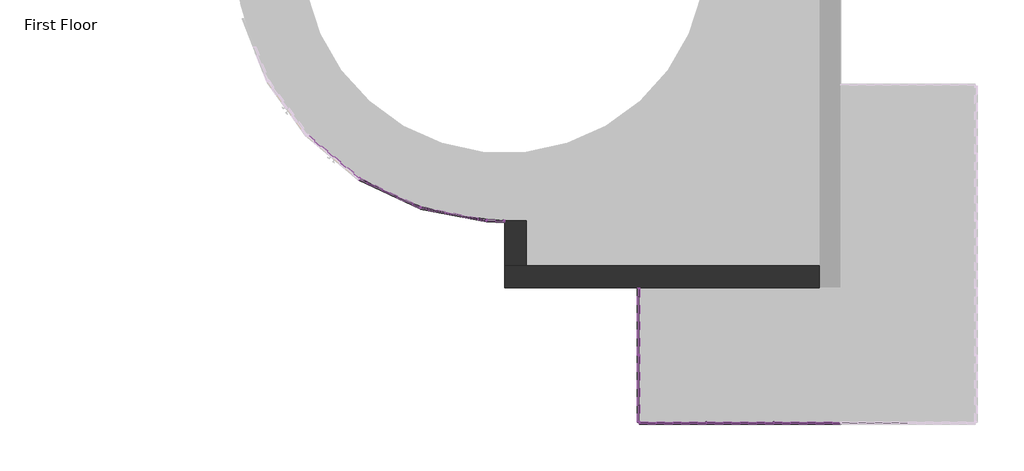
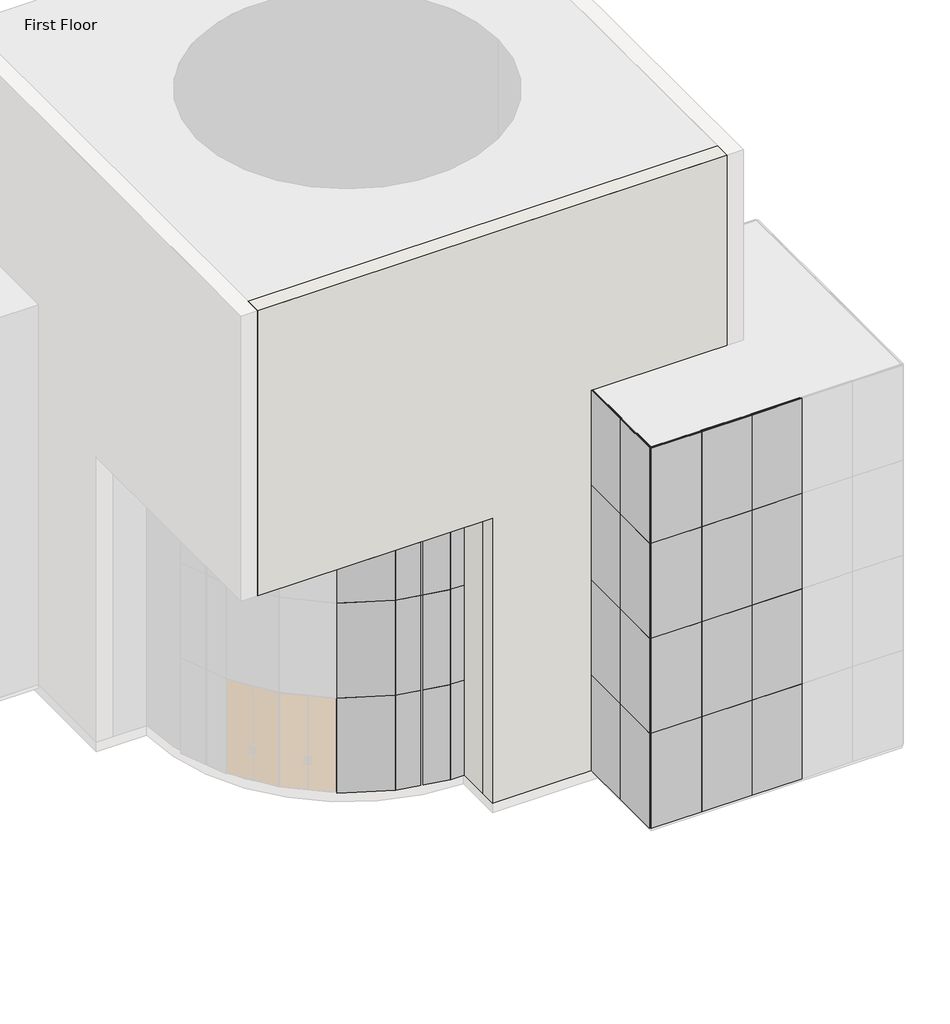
# One storey, part 1 of 4: 77 members, 29 plates, 2 walls.
"""IFC4 building model written with IfcOpenShell, lengths in millimetres."""

from ifc_helpers import new_model, si_unit, origin, origin_with_axes, place, context, project, spatial, polyline, outline, extrude, faceted_brep, transform, mapped, element, save
from components import member_74941792, member_5e617a80, member_9fd3d903, member_cbdb9076, member_6604d1e0, member_7e523723, member_648f3f05, member_cef3a68d, member_77cb5569, member_113f7001, system_panel_glazed_9c75bc08, system_panel_glazed_737b14db

model = new_model("IFC4")

# Units and contexts
model_context = context("Model", 3, world=origin())
ifc_project = project(units=[si_unit("LENGTHUNIT", "METRE", prefix="MILLI")], contexts=[model_context])

# Site, building, storey
site = spatial("IfcSite", under=ifc_project)
building = spatial("IfcBuilding", under=site)
storey = spatial("IfcBuildingStorey", under=building, Name="First Floor", Elevation=0.0)

# Members
placement = place(None, origin())
member_shape = member_74941792(model_context)
element("IfcMember", 1, ObjectType="Rectangular Mullion : 1\" Square", at=placement, inside=storey, context=model_context, shape_type="MappedRepresentation", body=[
    mapped(member_shape, transform((-3837.263284, -2526.2738568, 0.0), x_axis=(0.0, 0.0, -1.0), y_axis=(-1.0, 0.0, 0.0), z_axis=(0.0, 1.0, 0.0))),
])
element("IfcMember", 2, ObjectType="Rectangular Mullion : 1\" Square", at=placement, inside=storey, context=model_context, shape_type="MappedRepresentation", body=[
    mapped(member_shape, transform((-3837.263284, -4037.5738568, 0.0), x_axis=(0.0, 0.0, -1.0), y_axis=(-1.0, 0.0, 0.0), z_axis=(0.0, 1.0, 0.0))),
])
element("IfcMember", 3, ObjectType="Rectangular Mullion : 1\" Square", at=placement, inside=storey, context=model_context, shape_type="MappedRepresentation", body=[
    mapped(member_shape, transform((-3811.863284, -5548.8738568, 0.0), x_axis=(0.0, 0.0, -1.0), y_axis=(0.0, -1.0, 0.0), z_axis=(-1.0, 0.0, 0.0))),
])
member_2_shape = member_5e617a80(model_context)
element("IfcMember", 4, ObjectType="Rectangular Mullion : 1\" Square", at=placement, inside=storey, context=model_context, shape_type="MappedRepresentation", body=[
    mapped(member_2_shape, transform((-3837.263284, -4012.1738568, 3048.0), x_axis=(0.0, 0.0, 1.0), y_axis=(-1.0, 0.0, 0.0), z_axis=(0.0, -1.0, 0.0))),
])
element("IfcMember", 5, ObjectType="Rectangular Mullion : 1\" Square", at=placement, inside=storey, context=model_context, shape_type="MappedRepresentation", body=[
    mapped(member_2_shape, transform((-3837.263284, -5523.4738568, 3048.0), x_axis=(0.0, 0.0, 1.0), y_axis=(-1.0, 0.0, 0.0), z_axis=(0.0, -1.0, 0.0))),
])
element("IfcMember", 6, ObjectType="Rectangular Mullion : 1\" Square", at=placement, inside=storey, context=model_context, shape_type="MappedRepresentation", body=[
    mapped(member_2_shape, transform((-3837.263284, -4012.1738568, 6096.0), x_axis=(0.0, 0.0, 1.0), y_axis=(-1.0, 0.0, 0.0), z_axis=(0.0, -1.0, 0.0))),
])
element("IfcMember", 7, ObjectType="Rectangular Mullion : 1\" Square", at=placement, inside=storey, context=model_context, shape_type="MappedRepresentation", body=[
    mapped(member_2_shape, transform((-3837.263284, -5523.4738568, 6096.0), x_axis=(0.0, 0.0, 1.0), y_axis=(-1.0, 0.0, 0.0), z_axis=(0.0, -1.0, 0.0))),
])
element("IfcMember", 8, ObjectType="Rectangular Mullion : 1\" Square", at=placement, inside=storey, context=model_context, shape_type="MappedRepresentation", body=[
    mapped(member_2_shape, transform((-3837.263284, -4012.1738568, 9144.0), x_axis=(0.0, 0.0, 1.0), y_axis=(-1.0, 0.0, 0.0), z_axis=(0.0, -1.0, 0.0))),
])
element("IfcMember", 9, ObjectType="Rectangular Mullion : 1\" Square", at=placement, inside=storey, context=model_context, shape_type="MappedRepresentation", body=[
    mapped(member_2_shape, transform((-3837.263284, -5523.4738568, 9144.0), x_axis=(0.0, 0.0, 1.0), y_axis=(-1.0, 0.0, 0.0), z_axis=(0.0, -1.0, 0.0))),
])
element("IfcMember", 10, ObjectType="Rectangular Mullion : 1\" Square", at=placement, inside=storey, context=model_context, shape_type="MappedRepresentation", body=[
    mapped(member_2_shape, transform((-2325.963284, -5548.8738568, 6096.0), x_axis=(0.0, 0.0, 1.0), y_axis=(0.0, -1.0, 0.0), z_axis=(1.0, 0.0, 0.0))),
])
element("IfcMember", 11, ObjectType="Rectangular Mullion : 1\" Square", at=placement, inside=storey, context=model_context, shape_type="MappedRepresentation", body=[
    mapped(member_2_shape, transform((-2325.963284, -5548.8738568, 9144.0), x_axis=(0.0, 0.0, 1.0), y_axis=(0.0, -1.0, 0.0), z_axis=(1.0, 0.0, 0.0))),
])
element("IfcMember", 12, ObjectType="Rectangular Mullion : 1\" Square", at=placement, inside=storey, context=model_context, shape_type="MappedRepresentation", body=[
    mapped(member_2_shape, transform((-2325.963284, -5548.8738568, 3048.0), x_axis=(0.0, 0.0, 1.0), y_axis=(0.0, -1.0, 0.0), z_axis=(1.0, 0.0, 0.0))),
])
member_3_shape = member_9fd3d903(model_context)
element("IfcMember", 13, ObjectType="Rectangular Mullion : 1\" Square", at=placement, inside=storey, context=model_context, shape_type="MappedRepresentation", body=[
    mapped(member_3_shape, transform((722.036716, -5548.8738568, 9144.0), x_axis=(0.0, 0.0, 1.0), y_axis=(0.0, -1.0, 0.0), z_axis=(1.0, 0.0, 0.0))),
])
element("IfcMember", 14, ObjectType="Rectangular Mullion : 1\" Square", at=placement, inside=storey, context=model_context, shape_type="MappedRepresentation", body=[
    mapped(member_3_shape, transform((722.036716, -5548.8738568, 3048.0), x_axis=(0.0, 0.0, 1.0), y_axis=(0.0, -1.0, 0.0), z_axis=(1.0, 0.0, 0.0))),
])
element("IfcMember", 15, ObjectType="Rectangular Mullion : 1\" Square", at=placement, inside=storey, context=model_context, shape_type="MappedRepresentation", body=[
    mapped(member_3_shape, transform((-801.963284, -5548.8738568, 6096.0), x_axis=(0.0, 0.0, 1.0), y_axis=(0.0, -1.0, 0.0), z_axis=(1.0, 0.0, 0.0))),
])
element("IfcMember", 16, ObjectType="Rectangular Mullion : 1\" Square", at=placement, inside=storey, context=model_context, shape_type="MappedRepresentation", body=[
    mapped(member_3_shape, transform((722.036716, -5548.8738568, 6096.0), x_axis=(0.0, 0.0, 1.0), y_axis=(0.0, -1.0, 0.0), z_axis=(1.0, 0.0, 0.0))),
])
element("IfcMember", 17, ObjectType="Rectangular Mullion : 1\" Square", at=placement, inside=storey, context=model_context, shape_type="MappedRepresentation", body=[
    mapped(member_3_shape, transform((-801.963284, -5548.8738568, 9144.0), x_axis=(0.0, 0.0, 1.0), y_axis=(0.0, -1.0, 0.0), z_axis=(1.0, 0.0, 0.0))),
])
element("IfcMember", 18, ObjectType="Rectangular Mullion : 1\" Square", at=placement, inside=storey, context=model_context, shape_type="MappedRepresentation", body=[
    mapped(member_3_shape, transform((-801.963284, -5548.8738568, 3048.0), x_axis=(0.0, 0.0, 1.0), y_axis=(0.0, -1.0, 0.0), z_axis=(1.0, 0.0, 0.0))),
])
member_4_shape = member_cbdb9076(model_context)
element("IfcMember", 19, ObjectType="Rectangular Mullion : 1\" Square", at=placement, inside=storey, context=model_context, shape_type="MappedRepresentation", body=[
    mapped(member_4_shape, transform((-10165.4816678, -19.101504, 0.0), x_axis=(0.8428851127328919, -0.5380935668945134, 0.0), y_axis=(-0.5380935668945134, -0.8428851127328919, 0.0), z_axis=(0.0, 0.0, -1.0))),
])
element("IfcMember", 20, ObjectType="Rectangular Mullion : 1\" Square", at=placement, inside=storey, context=model_context, shape_type="MappedRepresentation", body=[
    mapped(member_4_shape, transform((-8788.4930432, -672.1545859, 0.0), x_axis=(0.9500132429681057, -0.3122096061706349, 0.0), y_axis=(-0.3122096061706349, -0.9500132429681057, 0.0), z_axis=(0.0, 0.0, -1.0))),
])
element("IfcMember", 21, ObjectType="Rectangular Mullion : 1\" Square", at=placement, inside=storey, context=model_context, shape_type="MappedRepresentation", body=[
    mapped(member_4_shape, transform((-7292.5525587, -963.2526222, 0.0), x_axis=(0.9977655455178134, -0.066812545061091, 0.0), y_axis=(-0.066812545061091, -0.9977655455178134, 0.0), z_axis=(0.0, 0.0, -1.0))),
])
element("IfcMember", 22, ObjectType="Rectangular Mullion : 1\" Square", at=placement, inside=storey, context=model_context, shape_type="MappedRepresentation", body=[
    mapped(member_4_shape, transform((-3837.263284, -4024.8738568, 0.0), x_axis=(0.0, -1.0, 0.0), y_axis=(-1.0, 0.0, 0.0), z_axis=(0.0, 0.0, -1.0))),
])
element("IfcMember", 23, ObjectType="Rectangular Mullion : 1\" Square", at=placement, inside=storey, context=model_context, shape_type="MappedRepresentation", body=[
    mapped(member_4_shape, transform((-2313.263284, -5548.8738568, 0.0), x_axis=(1.0, 0.0, 0.0), y_axis=(0.0, -1.0, 0.0), z_axis=(0.0, 0.0, -1.0))),
])
element("IfcMember", 24, ObjectType="Rectangular Mullion : 1\" Square", at=placement, inside=storey, context=model_context, shape_type="MappedRepresentation", body=[
    mapped(member_4_shape, transform((-789.263284, -5548.8738568, 0.0), x_axis=(1.0, 0.0, 0.0), y_axis=(0.0, -1.0, 0.0), z_axis=(0.0, 0.0, -1.0))),
])
member_5_shape = member_6604d1e0(model_context)
element("IfcMember", 25, ObjectType="Rectangular Mullion : 1\" Square", at=placement, inside=storey, context=model_context, shape_type="MappedRepresentation", body=[
    mapped(member_5_shape, transform((-801.963284, -5548.8738568, 12192.0), x_axis=(0.0, 0.0, 1.0), y_axis=(0.0, -1.0, 0.0), z_axis=(1.0, 0.0, 0.0))),
])
element("IfcMember", 26, ObjectType="Rectangular Mullion : 1\" Square", at=placement, inside=storey, context=model_context, shape_type="MappedRepresentation", body=[
    mapped(member_5_shape, transform((722.036716, -5548.8738568, 12192.0), x_axis=(0.0, 0.0, 1.0), y_axis=(0.0, -1.0, 0.0), z_axis=(1.0, 0.0, 0.0))),
])
element("IfcMember", 27, ObjectType="Rectangular Mullion : 1\" Square", at=placement, inside=storey, context=model_context, shape_type="MappedRepresentation", body=[
    mapped(member_4_shape, transform((-10165.4816678, -19.101504, 3048.0), x_axis=(0.8428851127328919, -0.5380935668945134, 0.0), y_axis=(-0.5380935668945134, -0.8428851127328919, 0.0), z_axis=(0.0, 0.0, -1.0))),
])
element("IfcMember", 28, ObjectType="Rectangular Mullion : 1\" Square", at=placement, inside=storey, context=model_context, shape_type="MappedRepresentation", body=[
    mapped(member_4_shape, transform((-8788.4930432, -672.1545859, 3048.0), x_axis=(0.9500132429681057, -0.3122096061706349, 0.0), y_axis=(-0.3122096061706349, -0.9500132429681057, 0.0), z_axis=(0.0, 0.0, -1.0))),
])
element("IfcMember", 29, ObjectType="Rectangular Mullion : 1\" Square", at=placement, inside=storey, context=model_context, shape_type="MappedRepresentation", body=[
    mapped(member_4_shape, transform((-7292.5525587, -963.2526222, 3048.0), x_axis=(0.9977655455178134, -0.066812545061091, 0.0), y_axis=(-0.066812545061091, -0.9977655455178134, 0.0), z_axis=(0.0, 0.0, -1.0))),
])
element("IfcMember", 30, ObjectType="Rectangular Mullion : 1\" Square", at=placement, inside=storey, context=model_context, shape_type="MappedRepresentation", body=[
    mapped(member_4_shape, transform((-3837.263284, -4024.8738568, 3048.0), x_axis=(0.0, -1.0, 0.0), y_axis=(-1.0, 0.0, 0.0), z_axis=(0.0, 0.0, -1.0))),
])
element("IfcMember", 31, ObjectType="Rectangular Mullion : 1\" Square", at=placement, inside=storey, context=model_context, shape_type="MappedRepresentation", body=[
    mapped(member_4_shape, transform((-3837.263284, -4024.8738568, 6096.0), x_axis=(0.0, -1.0, 0.0), y_axis=(-1.0, 0.0, 0.0), z_axis=(0.0, 0.0, -1.0))),
])
element("IfcMember", 32, ObjectType="Rectangular Mullion : 1\" Square", at=placement, inside=storey, context=model_context, shape_type="MappedRepresentation", body=[
    mapped(member_4_shape, transform((-2313.263284, -5548.8738568, 3048.0), x_axis=(1.0, 0.0, 0.0), y_axis=(0.0, -1.0, 0.0), z_axis=(0.0, 0.0, -1.0))),
])
element("IfcMember", 33, ObjectType="Rectangular Mullion : 1\" Square", at=placement, inside=storey, context=model_context, shape_type="MappedRepresentation", body=[
    mapped(member_4_shape, transform((-2313.263284, -5548.8738568, 6096.0), x_axis=(1.0, 0.0, 0.0), y_axis=(0.0, -1.0, 0.0), z_axis=(0.0, 0.0, -1.0))),
])
element("IfcMember", 34, ObjectType="Rectangular Mullion : 1\" Square", at=placement, inside=storey, context=model_context, shape_type="MappedRepresentation", body=[
    mapped(member_4_shape, transform((-789.263284, -5548.8738568, 3048.0), x_axis=(1.0, 0.0, 0.0), y_axis=(0.0, -1.0, 0.0), z_axis=(0.0, 0.0, -1.0))),
])
element("IfcMember", 35, ObjectType="Rectangular Mullion : 1\" Square", at=placement, inside=storey, context=model_context, shape_type="MappedRepresentation", body=[
    mapped(member_4_shape, transform((-789.263284, -5548.8738568, 6096.0), x_axis=(1.0, 0.0, 0.0), y_axis=(0.0, -1.0, 0.0), z_axis=(0.0, 0.0, -1.0))),
])
element("IfcMember", 36, ObjectType="Rectangular Mullion : 1\" Square", at=placement, inside=storey, context=model_context, shape_type="MappedRepresentation", body=[
    mapped(member_4_shape, transform((-10165.4816678, -19.101504, 6096.0), x_axis=(0.8428851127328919, -0.5380935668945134, 0.0), y_axis=(-0.5380935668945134, -0.8428851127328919, 0.0), z_axis=(0.0, 0.0, -1.0))),
])
element("IfcMember", 37, ObjectType="Rectangular Mullion : 1\" Square", at=placement, inside=storey, context=model_context, shape_type="MappedRepresentation", body=[
    mapped(member_4_shape, transform((-8788.4930432, -672.1545859, 6096.0), x_axis=(0.9500132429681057, -0.3122096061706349, 0.0), y_axis=(-0.3122096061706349, -0.9500132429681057, 0.0), z_axis=(0.0, 0.0, -1.0))),
])
element("IfcMember", 38, ObjectType="Rectangular Mullion : 1\" Square", at=placement, inside=storey, context=model_context, shape_type="MappedRepresentation", body=[
    mapped(member_4_shape, transform((-7292.5525587, -963.2526222, 6096.0), x_axis=(0.9977655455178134, -0.066812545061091, 0.0), y_axis=(-0.066812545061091, -0.9977655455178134, 0.0), z_axis=(0.0, 0.0, -1.0))),
])
element("IfcMember", 39, ObjectType="Rectangular Mullion : 1\" Square", at=placement, inside=storey, context=model_context, shape_type="MappedRepresentation", body=[
    mapped(member_4_shape, transform((-3837.263284, -4024.8738568, 9144.0), x_axis=(0.0, -1.0, 0.0), y_axis=(-1.0, 0.0, 0.0), z_axis=(0.0, 0.0, -1.0))),
])
element("IfcMember", 40, ObjectType="Rectangular Mullion : 1\" Square", at=placement, inside=storey, context=model_context, shape_type="MappedRepresentation", body=[
    mapped(member_4_shape, transform((-2313.263284, -5548.8738568, 9144.0), x_axis=(1.0, 0.0, 0.0), y_axis=(0.0, -1.0, 0.0), z_axis=(0.0, 0.0, -1.0))),
])
element("IfcMember", 41, ObjectType="Rectangular Mullion : 1\" Square", at=placement, inside=storey, context=model_context, shape_type="MappedRepresentation", body=[
    mapped(member_4_shape, transform((-789.263284, -5548.8738568, 9144.0), x_axis=(1.0, 0.0, 0.0), y_axis=(0.0, -1.0, 0.0), z_axis=(0.0, 0.0, -1.0))),
])
element("IfcMember", 42, ObjectType="Rectangular Mullion : 1\" Square", at=placement, inside=storey, context=model_context, shape_type="MappedRepresentation", body=[
    mapped(member_5_shape, transform((-2300.563284, -5548.8738568, 0.0), x_axis=(0.0, 0.0, -1.0), y_axis=(0.0, -1.0, 0.0), z_axis=(-1.0, 0.0, 0.0))),
])
element("IfcMember", 43, ObjectType="Rectangular Mullion : 1\" Square", at=placement, inside=storey, context=model_context, shape_type="MappedRepresentation", body=[
    mapped(member_5_shape, transform((-776.563284, -5548.8738568, 0.0), x_axis=(0.0, 0.0, -1.0), y_axis=(0.0, -1.0, 0.0), z_axis=(-1.0, 0.0, 0.0))),
])
element("IfcMember", 44, ObjectType="Rectangular Mullion : 1\" Square", at=placement, inside=storey, context=model_context, shape_type="MappedRepresentation", body=[
    mapped(member_5_shape, transform((747.436716, -5548.8738568, 0.0), x_axis=(0.0, 0.0, -1.0), y_axis=(0.0, -1.0, 0.0), z_axis=(-1.0, 0.0, 0.0))),
])
element("IfcMember", 45, ObjectType="Rectangular Mullion : 1\" Square", at=placement, inside=storey, context=model_context, shape_type="MappedRepresentation", body=[
    mapped(member_shape, transform((-3837.263284, -5523.4738568, 12192.0), x_axis=(0.0, 0.0, 1.0), y_axis=(-1.0, 0.0, 0.0), z_axis=(0.0, -1.0, 0.0))),
])
element("IfcMember", 46, ObjectType="Rectangular Mullion : 1\" Square", at=placement, inside=storey, context=model_context, shape_type="MappedRepresentation", body=[
    mapped(member_shape, transform((-3837.263284, -4012.1738568, 12192.0), x_axis=(0.0, 0.0, 1.0), y_axis=(-1.0, 0.0, 0.0), z_axis=(0.0, -1.0, 0.0))),
])
element("IfcMember", 47, ObjectType="Rectangular Mullion : 1\" Square", at=placement, inside=storey, context=model_context, shape_type="MappedRepresentation", body=[
    mapped(member_shape, transform((-2325.963284, -5548.8738568, 12192.0), x_axis=(0.0, 0.0, 1.0), y_axis=(0.0, -1.0, 0.0), z_axis=(1.0, 0.0, 0.0))),
])
member_6_shape = member_7e523723(model_context)
element("IfcMember", 48, ObjectType="Rectangular Mullion : 1\" Square", at=placement, inside=storey, context=model_context, shape_type="MappedRepresentation", body=[
    mapped(member_6_shape, transform((-6885.263284, -976.8738568, 0.0), x_axis=(0.9994412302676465, -0.03342494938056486, 0.0), y_axis=(-0.03342494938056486, -0.9994412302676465, 0.0), z_axis=(0.0, 0.0, -1.0))),
])
element("IfcMember", 49, ObjectType="Rectangular Mullion : 1\" Square", at=placement, inside=storey, context=model_context, shape_type="MappedRepresentation", body=[
    mapped(member_6_shape, transform((-3837.263284, -5548.8738568, 0.0), x_axis=(0.0, -1.0, 0.0), y_axis=(-1.0, 0.0, 0.0), z_axis=(0.0, 0.0, -1.0))),
])
element("IfcMember", 50, ObjectType="Rectangular Mullion : 1\" Square", at=placement, inside=storey, context=model_context, shape_type="MappedRepresentation", body=[
    mapped(member_6_shape, transform((-3837.263284, -2500.8738568, 3048.0), x_axis=(0.0, 1.0, 0.0), y_axis=(-1.0, 0.0, 0.0), z_axis=(0.0, 0.0, 1.0))),
])
element("IfcMember", 51, ObjectType="Rectangular Mullion : 1\" Square", at=placement, inside=storey, context=model_context, shape_type="MappedRepresentation", body=[
    mapped(member_6_shape, transform((-3837.263284, -5548.8738568, 3048.0), x_axis=(-1.0, 0.0, 0.0), y_axis=(0.0, -1.0, 0.0), z_axis=(0.0, 0.0, 1.0))),
])
element("IfcMember", 52, ObjectType="Rectangular Mullion : 1\" Square", at=placement, inside=storey, context=model_context, shape_type="MappedRepresentation", body=[
    mapped(member_6_shape, transform((-3837.263284, -2500.8738568, 6096.0), x_axis=(0.0, 1.0, 0.0), y_axis=(-1.0, 0.0, 0.0), z_axis=(0.0, 0.0, 1.0))),
])
element("IfcMember", 53, ObjectType="Rectangular Mullion : 1\" Square", at=placement, inside=storey, context=model_context, shape_type="MappedRepresentation", body=[
    mapped(member_6_shape, transform((-3837.263284, -2500.8738568, 9144.0), x_axis=(0.0, 1.0, 0.0), y_axis=(-1.0, 0.0, 0.0), z_axis=(0.0, 0.0, 1.0))),
])
element("IfcMember", 54, ObjectType="Rectangular Mullion : 1\" Square", at=placement, inside=storey, context=model_context, shape_type="MappedRepresentation", body=[
    mapped(member_6_shape, transform((-3837.263284, -5548.8738568, 6096.0), x_axis=(-1.0, 0.0, 0.0), y_axis=(0.0, -1.0, 0.0), z_axis=(0.0, 0.0, 1.0))),
])
element("IfcMember", 55, ObjectType="Rectangular Mullion : 1\" Square", at=placement, inside=storey, context=model_context, shape_type="MappedRepresentation", body=[
    mapped(member_6_shape, transform((-3837.263284, -5548.8738568, 9144.0), x_axis=(-1.0, 0.0, 0.0), y_axis=(0.0, -1.0, 0.0), z_axis=(0.0, 0.0, 1.0))),
])
element("IfcMember", 56, ObjectType="Rectangular Mullion : 1\" Square", at=placement, inside=storey, context=model_context, shape_type="MappedRepresentation", body=[
    mapped(member_6_shape, transform((-6885.263284, -976.8738568, 3048.0), x_axis=(0.9994412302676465, -0.03342494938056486, 0.0), y_axis=(-0.03342494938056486, -0.9994412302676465, 0.0), z_axis=(0.0, 0.0, -1.0))),
])
element("IfcMember", 57, ObjectType="Rectangular Mullion : 1\" Square", at=placement, inside=storey, context=model_context, shape_type="MappedRepresentation", body=[
    mapped(member_6_shape, transform((-3837.263284, -5548.8738568, 3048.0), x_axis=(0.0, -1.0, 0.0), y_axis=(-1.0, 0.0, 0.0), z_axis=(0.0, 0.0, -1.0))),
])
element("IfcMember", 58, ObjectType="Rectangular Mullion : 1\" Square", at=placement, inside=storey, context=model_context, shape_type="MappedRepresentation", body=[
    mapped(member_6_shape, transform((-3837.263284, -5548.8738568, 6096.0), x_axis=(0.0, -1.0, 0.0), y_axis=(-1.0, 0.0, 0.0), z_axis=(0.0, 0.0, -1.0))),
])
element("IfcMember", 59, ObjectType="Rectangular Mullion : 1\" Square", at=placement, inside=storey, context=model_context, shape_type="MappedRepresentation", body=[
    mapped(member_6_shape, transform((-6885.263284, -976.8738568, 6096.0), x_axis=(0.9994412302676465, -0.03342494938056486, 0.0), y_axis=(-0.03342494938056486, -0.9994412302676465, 0.0), z_axis=(0.0, 0.0, -1.0))),
])
element("IfcMember", 60, ObjectType="Rectangular Mullion : 1\" Square", at=placement, inside=storey, context=model_context, shape_type="MappedRepresentation", body=[
    mapped(member_6_shape, transform((-3837.263284, -5548.8738568, 9144.0), x_axis=(0.0, -1.0, 0.0), y_axis=(-1.0, 0.0, 0.0), z_axis=(0.0, 0.0, -1.0))),
])
element("IfcMember", 61, ObjectType="Rectangular Mullion : 1\" Square", at=placement, inside=storey, context=model_context, shape_type="MappedRepresentation", body=[
    mapped(member_6_shape, transform((-3837.263284, -2500.8738568, 12192.0), x_axis=(0.0, 1.0, 0.0), y_axis=(-1.0, 0.0, 0.0), z_axis=(0.0, 0.0, 1.0))),
])
element("IfcMember", 62, ObjectType="Rectangular Mullion : 1\" Square", at=placement, inside=storey, context=model_context, shape_type="MappedRepresentation", body=[
    mapped(member_6_shape, transform((-3837.263284, -5548.8738568, 12192.0), x_axis=(-1.0, 0.0, 0.0), y_axis=(0.0, -1.0, 0.0), z_axis=(0.0, 0.0, 1.0))),
])
member_7_shape = member_648f3f05(model_context)
element("IfcMember", 63, ObjectType="Rectangular Mullion : 1\" Square", at=placement, inside=storey, context=model_context, shape_type="MappedRepresentation", body=[
    mapped(member_7_shape, transform((-10175.2481259, -10.9832347, 3048.0), x_axis=(0.0, 0.0, 1.0), y_axis=(-0.639233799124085, -0.7690124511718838, 0.0), z_axis=(0.7690124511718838, -0.639233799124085, 0.0))),
])
element("IfcMember", 64, ObjectType="Rectangular Mullion : 1\" Square", at=placement, inside=storey, context=model_context, shape_type="MappedRepresentation", body=[
    mapped(member_7_shape, transform((-8799.9679484, -666.7124769, 3048.0), x_axis=(0.0, 0.0, 1.0), y_axis=(-0.4285125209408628, -0.9035358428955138, 0.0), z_axis=(0.9035358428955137, -0.42851252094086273, 0.0))),
])
element("IfcMember", 65, ObjectType="Rectangular Mullion : 1\" Square", at=placement, inside=storey, context=model_context, shape_type="MappedRepresentation", body=[
    mapped(member_7_shape, transform((-7305.0187294, -960.8268053, 3048.0), x_axis=(0.0, 0.0, 1.0), y_axis=(-0.19100921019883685, -0.981588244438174, 0.0), z_axis=(0.981588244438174, -0.19100921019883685, 0.0))),
])
element("IfcMember", 66, ObjectType="Rectangular Mullion : 1\" Square", at=placement, inside=storey, context=model_context, shape_type="MappedRepresentation", body=[
    mapped(member_7_shape, transform((-10175.2481259, -10.9832347, 6096.0), x_axis=(0.0, 0.0, 1.0), y_axis=(-0.639233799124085, -0.7690124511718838, 0.0), z_axis=(0.7690124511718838, -0.639233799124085, 0.0))),
])
element("IfcMember", 67, ObjectType="Rectangular Mullion : 1\" Square", at=placement, inside=storey, context=model_context, shape_type="MappedRepresentation", body=[
    mapped(member_7_shape, transform((-8799.9679484, -666.7124769, 6096.0), x_axis=(0.0, 0.0, 1.0), y_axis=(-0.4285125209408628, -0.9035358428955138, 0.0), z_axis=(0.9035358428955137, -0.42851252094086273, 0.0))),
])
element("IfcMember", 68, ObjectType="Rectangular Mullion : 1\" Square", at=placement, inside=storey, context=model_context, shape_type="MappedRepresentation", body=[
    mapped(member_7_shape, transform((-7305.0187294, -960.8268053, 6096.0), x_axis=(0.0, 0.0, 1.0), y_axis=(-0.19100921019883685, -0.981588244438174, 0.0), z_axis=(0.981588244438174, -0.19100921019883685, 0.0))),
])
member_8_shape = member_cef3a68d(model_context)
element("IfcMember", 69, ObjectType="Rectangular Mullion : 1\" Square", at=placement, inside=storey, context=model_context, shape_type="MappedRepresentation", body=[
    mapped(member_8_shape, transform((-6910.6490912, -976.0248631, 3048.0), x_axis=(0.0, 0.0, 1.0), y_axis=(-0.033424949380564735, -0.9994412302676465, 0.0), z_axis=(0.9994412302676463, -0.03342494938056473, 0.0))),
])
element("IfcMember", 70, ObjectType="Rectangular Mullion : 1\" Square", at=placement, inside=storey, context=model_context, shape_type="MappedRepresentation", body=[
    mapped(member_8_shape, transform((-6910.6490912, -976.0248631, 6096.0), x_axis=(0.0, 0.0, 1.0), y_axis=(-0.033424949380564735, -0.9994412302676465, 0.0), z_axis=(0.9994412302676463, -0.03342494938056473, 0.0))),
])
member_9_shape = member_77cb5569(model_context)
element("IfcMember", 71, ObjectType="Rectangular Mullion : 1\" Square", at=placement, inside=storey, context=model_context, shape_type="MappedRepresentation", body=[
    mapped(member_9_shape, transform((-6910.6490912, -976.0248631, 9144.0), x_axis=(0.0, 0.0, 1.0), y_axis=(-0.033424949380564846, -0.9994412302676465, 0.0), z_axis=(0.9994412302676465, -0.033424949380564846, 0.0))),
])
member_10_shape = member_113f7001(model_context)
element("IfcMember", 72, ObjectType="Rectangular Mullion : 1\" Square", at=placement, inside=storey, context=model_context, shape_type="MappedRepresentation", body=[
    mapped(member_10_shape, transform((-10154.0067626, -24.543613, 0.0), x_axis=(0.0, 0.0, -1.0), y_axis=(-0.42851252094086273, -0.9035358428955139, 0.0), z_axis=(-0.9035358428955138, 0.4285125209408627, 0.0))),
])
element("IfcMember", 73, ObjectType="Rectangular Mullion : 1\" Square", at=placement, inside=storey, context=model_context, shape_type="MappedRepresentation", body=[
    mapped(member_10_shape, transform((-8776.0268725, -674.5804029, 0.0), x_axis=(0.0, 0.0, -1.0), y_axis=(-0.19100921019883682, -0.981588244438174, 0.0), z_axis=(-0.981588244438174, 0.19100921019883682, 0.0))),
])
element("IfcMember", 74, ObjectType="Rectangular Mullion : 1\" Square", at=placement, inside=storey, context=model_context, shape_type="MappedRepresentation", body=[
    mapped(member_9_shape, transform((-7279.8596551, -963.6771191, 0.0), x_axis=(0.0, 0.0, -1.0), y_axis=(-0.033424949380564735, -0.9994412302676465, 0.0), z_axis=(-0.9994412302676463, 0.03342494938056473, 0.0))),
])
element("IfcMember", 75, ObjectType="Rectangular Mullion : 1\" Square", at=placement, inside=storey, context=model_context, shape_type="MappedRepresentation", body=[
    mapped(member_10_shape, transform((-10175.2481259, -10.9832347, 9144.0), x_axis=(0.0, 0.0, 1.0), y_axis=(-0.6392337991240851, -0.7690124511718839, 0.0), z_axis=(0.7690124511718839, -0.6392337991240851, 0.0))),
])
element("IfcMember", 76, ObjectType="Rectangular Mullion : 1\" Square", at=placement, inside=storey, context=model_context, shape_type="MappedRepresentation", body=[
    mapped(member_10_shape, transform((-8799.9679484, -666.7124769, 9144.0), x_axis=(0.0, 0.0, 1.0), y_axis=(-0.42851252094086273, -0.9035358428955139, 0.0), z_axis=(0.9035358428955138, -0.4285125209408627, 0.0))),
])
element("IfcMember", 77, ObjectType="Rectangular Mullion : 1\" Square", at=placement, inside=storey, context=model_context, shape_type="MappedRepresentation", body=[
    mapped(member_10_shape, transform((-7305.0187294, -960.8268053, 9144.0), x_axis=(0.0, 0.0, 1.0), y_axis=(-0.19100921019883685, -0.9815882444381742, 0.0), z_axis=(0.9815882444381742, -0.19100921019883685, 0.0))),
])

# Plates
system_panel_glazed_shape = system_panel_glazed_9c75bc08(model_context)
element("IfcPlate", 78, ObjectType="System Panel : Glazed", at=placement, inside=storey, context=model_context, shape_type="MappedRepresentation", body=[
    mapped(system_panel_glazed_shape, transform((-3837.263284, -3262.8738568, 0.0), x_axis=(0.0, -1.0, 0.0), y_axis=(1.0, 0.0, 0.0), z_axis=(0.0, 0.0, 1.0))),
])
element("IfcPlate", 79, ObjectType="System Panel : Glazed", at=placement, inside=storey, context=model_context, shape_type="MappedRepresentation", body=[
    mapped(system_panel_glazed_shape, transform((-3837.263284, -4786.8738568, 0.0), x_axis=(0.0, -1.0, 0.0), y_axis=(1.0, 0.0, 0.0), z_axis=(0.0, 0.0, 1.0))),
])
element("IfcPlate", 80, ObjectType="System Panel : Glazed", at=placement, inside=storey, context=model_context, shape_type="MappedRepresentation", body=[
    mapped(system_panel_glazed_shape, transform((-3837.263284, -3262.8738568, 3048.0), x_axis=(0.0, -1.0, 0.0), y_axis=(1.0, 0.0, 0.0), z_axis=(0.0, 0.0, 1.0))),
])
element("IfcPlate", 81, ObjectType="System Panel : Glazed", at=placement, inside=storey, context=model_context, shape_type="MappedRepresentation", body=[
    mapped(system_panel_glazed_shape, transform((-3837.263284, -4786.8738568, 3048.0), x_axis=(0.0, -1.0, 0.0), y_axis=(1.0, 0.0, 0.0), z_axis=(0.0, 0.0, 1.0))),
])
element("IfcPlate", 82, ObjectType="System Panel : Glazed", at=placement, inside=storey, context=model_context, shape_type="MappedRepresentation", body=[
    mapped(system_panel_glazed_shape, transform((-3837.263284, -3262.8738568, 6096.0), x_axis=(0.0, -1.0, 0.0), y_axis=(1.0, 0.0, 0.0), z_axis=(0.0, 0.0, 1.0))),
])
element("IfcPlate", 83, ObjectType="System Panel : Glazed", at=placement, inside=storey, context=model_context, shape_type="MappedRepresentation", body=[
    mapped(system_panel_glazed_shape, transform((-3837.263284, -4786.8738568, 6096.0), x_axis=(0.0, -1.0, 0.0), y_axis=(1.0, 0.0, 0.0), z_axis=(0.0, 0.0, 1.0))),
])
element("IfcPlate", 84, ObjectType="System Panel : Glazed", at=placement, inside=storey, context=model_context, shape_type="MappedRepresentation", body=[
    mapped(system_panel_glazed_shape, transform((-3837.263284, -3262.8738568, 9144.0), x_axis=(0.0, -1.0, 0.0), y_axis=(1.0, 0.0, 0.0), z_axis=(0.0, 0.0, 1.0))),
])
element("IfcPlate", 85, ObjectType="System Panel : Glazed", at=placement, inside=storey, context=model_context, shape_type="MappedRepresentation", body=[
    mapped(system_panel_glazed_shape, transform((-3837.263284, -4786.8738568, 9144.0), x_axis=(0.0, -1.0, 0.0), y_axis=(1.0, 0.0, 0.0), z_axis=(0.0, 0.0, 1.0))),
])
element("IfcPlate", 86, ObjectType="System Panel : Glazed", at=placement, inside=storey, context=model_context, shape_type="MappedRepresentation", body=[
    mapped(system_panel_glazed_shape, transform((-3075.263284, -5548.8738568, 0.0), x_axis=(1.0, 0.0, 0.0), y_axis=(0.0, 1.0, 0.0), z_axis=(0.0, 0.0, 1.0))),
])
element("IfcPlate", 87, ObjectType="System Panel : Glazed", at=placement, inside=storey, context=model_context, shape_type="MappedRepresentation", body=[
    mapped(system_panel_glazed_shape, transform((-1551.263284, -5548.8738568, 0.0), x_axis=(1.0, 0.0, 0.0), y_axis=(0.0, 1.0, 0.0), z_axis=(0.0, 0.0, 1.0))),
])
element("IfcPlate", 88, ObjectType="System Panel : Glazed", at=placement, inside=storey, context=model_context, shape_type="MappedRepresentation", body=[
    mapped(system_panel_glazed_shape, transform((-27.263284, -5548.8738568, 0.0), x_axis=(1.0, 0.0, 0.0), y_axis=(0.0, 1.0, 0.0), z_axis=(0.0, 0.0, 1.0))),
])
element("IfcPlate", 89, ObjectType="System Panel : Glazed", at=placement, inside=storey, context=model_context, shape_type="MappedRepresentation", body=[
    mapped(system_panel_glazed_shape, transform((-3075.263284, -5548.8738568, 3048.0), x_axis=(1.0, 0.0, 0.0), y_axis=(0.0, 1.0, 0.0), z_axis=(0.0, 0.0, 1.0))),
])
element("IfcPlate", 90, ObjectType="System Panel : Glazed", at=placement, inside=storey, context=model_context, shape_type="MappedRepresentation", body=[
    mapped(system_panel_glazed_shape, transform((-1551.263284, -5548.8738568, 3048.0), x_axis=(1.0, 0.0, 0.0), y_axis=(0.0, 1.0, 0.0), z_axis=(0.0, 0.0, 1.0))),
])
element("IfcPlate", 91, ObjectType="System Panel : Glazed", at=placement, inside=storey, context=model_context, shape_type="MappedRepresentation", body=[
    mapped(system_panel_glazed_shape, transform((-27.263284, -5548.8738568, 3048.0), x_axis=(1.0, 0.0, 0.0), y_axis=(0.0, 1.0, 0.0), z_axis=(0.0, 0.0, 1.0))),
])
element("IfcPlate", 92, ObjectType="System Panel : Glazed", at=placement, inside=storey, context=model_context, shape_type="MappedRepresentation", body=[
    mapped(system_panel_glazed_shape, transform((-3075.263284, -5548.8738568, 6096.0), x_axis=(1.0, 0.0, 0.0), y_axis=(0.0, 1.0, 0.0), z_axis=(0.0, 0.0, 1.0))),
])
element("IfcPlate", 93, ObjectType="System Panel : Glazed", at=placement, inside=storey, context=model_context, shape_type="MappedRepresentation", body=[
    mapped(system_panel_glazed_shape, transform((-1551.263284, -5548.8738568, 6096.0), x_axis=(1.0, 0.0, 0.0), y_axis=(0.0, 1.0, 0.0), z_axis=(0.0, 0.0, 1.0))),
])
element("IfcPlate", 94, ObjectType="System Panel : Glazed", at=placement, inside=storey, context=model_context, shape_type="MappedRepresentation", body=[
    mapped(system_panel_glazed_shape, transform((-27.263284, -5548.8738568, 6096.0), x_axis=(1.0, 0.0, 0.0), y_axis=(0.0, 1.0, 0.0), z_axis=(0.0, 0.0, 1.0))),
])
element("IfcPlate", 95, ObjectType="System Panel : Glazed", at=placement, inside=storey, context=model_context, shape_type="MappedRepresentation", body=[
    mapped(system_panel_glazed_shape, transform((-3075.263284, -5548.8738568, 9144.0), x_axis=(1.0, 0.0, 0.0), y_axis=(0.0, 1.0, 0.0), z_axis=(0.0, 0.0, 1.0))),
])
element("IfcPlate", 96, ObjectType="System Panel : Glazed", at=placement, inside=storey, context=model_context, shape_type="MappedRepresentation", body=[
    mapped(system_panel_glazed_shape, transform((-1551.263284, -5548.8738568, 9144.0), x_axis=(1.0, 0.0, 0.0), y_axis=(0.0, 1.0, 0.0), z_axis=(0.0, 0.0, 1.0))),
])
element("IfcPlate", 97, ObjectType="System Panel : Glazed", at=placement, inside=storey, context=model_context, shape_type="MappedRepresentation", body=[
    mapped(system_panel_glazed_shape, transform((-27.263284, -5548.8738568, 9144.0), x_axis=(1.0, 0.0, 0.0), y_axis=(0.0, 1.0, 0.0), z_axis=(0.0, 0.0, 1.0))),
])
element("IfcPlate", 98, ObjectType="System Panel : Glazed", at=placement, inside=storey, context=model_context, shape_type="MappedRepresentation", body=[
    mapped(system_panel_glazed_shape, transform((-9476.9873555, -345.6280449, 0.0), x_axis=(0.9035358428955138, -0.42851252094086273, 0.0), y_axis=(0.42851252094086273, 0.9035358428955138, 0.0), z_axis=(0.0, 0.0, 1.0))),
])
element("IfcPlate", 99, ObjectType="System Panel : Glazed", at=placement, inside=storey, context=model_context, shape_type="MappedRepresentation", body=[
    mapped(system_panel_glazed_shape, transform((-8040.522801, -817.7036041, 0.0), x_axis=(0.981588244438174, -0.19100921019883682, 0.0), y_axis=(0.19100921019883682, 0.981588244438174, 0.0), z_axis=(0.0, 0.0, 1.0))),
])
element("IfcPlate", 100, ObjectType="System Panel : Glazed", at=placement, inside=storey, context=model_context, shape_type="MappedRepresentation", body=[
    mapped(system_panel_glazed_shape, transform((-9476.9873555, -345.6280449, 3048.0), x_axis=(0.9035358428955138, -0.42851252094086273, 0.0), y_axis=(0.42851252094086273, 0.9035358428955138, 0.0), z_axis=(0.0, 0.0, 1.0))),
])
element("IfcPlate", 101, ObjectType="System Panel : Glazed", at=placement, inside=storey, context=model_context, shape_type="MappedRepresentation", body=[
    mapped(system_panel_glazed_shape, transform((-8040.522801, -817.7036041, 3048.0), x_axis=(0.981588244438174, -0.19100921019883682, 0.0), y_axis=(0.19100921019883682, 0.981588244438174, 0.0), z_axis=(0.0, 0.0, 1.0))),
])
element("IfcPlate", 102, ObjectType="System Panel : Glazed", at=placement, inside=storey, context=model_context, shape_type="MappedRepresentation", body=[
    mapped(system_panel_glazed_shape, transform((-9476.9873555, -345.6280449, 6096.0), x_axis=(0.9035358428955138, -0.42851252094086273, 0.0), y_axis=(0.42851252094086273, 0.9035358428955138, 0.0), z_axis=(0.0, 0.0, 1.0))),
])
element("IfcPlate", 103, ObjectType="System Panel : Glazed", at=placement, inside=storey, context=model_context, shape_type="MappedRepresentation", body=[
    mapped(system_panel_glazed_shape, transform((-8040.522801, -817.7036041, 6096.0), x_axis=(0.981588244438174, -0.19100921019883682, 0.0), y_axis=(0.19100921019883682, 0.981588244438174, 0.0), z_axis=(0.0, 0.0, 1.0))),
])
system_panel_glazed_2_shape = system_panel_glazed_737b14db(model_context)
element("IfcPlate", 104, ObjectType="System Panel : Glazed", at=placement, inside=storey, context=model_context, shape_type="MappedRepresentation", body=[
    mapped(system_panel_glazed_2_shape, transform((-7088.9079213, -970.0632395, 0.0), x_axis=(0.9994412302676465, -0.03342494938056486, 0.0), y_axis=(0.03342494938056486, 0.9994412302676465, 0.0), z_axis=(0.0, 0.0, 1.0))),
])
element("IfcPlate", 105, ObjectType="System Panel : Glazed", at=placement, inside=storey, context=model_context, shape_type="MappedRepresentation", body=[
    mapped(system_panel_glazed_2_shape, transform((-7088.9079213, -970.0632395, 3048.0), x_axis=(0.9994412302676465, -0.03342494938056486, 0.0), y_axis=(0.03342494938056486, 0.9994412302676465, 0.0), z_axis=(0.0, 0.0, 1.0))),
])
element("IfcPlate", 106, ObjectType="System Panel : Glazed", at=placement, inside=storey, context=model_context, shape_type="MappedRepresentation", body=[
    mapped(system_panel_glazed_2_shape, transform((-7088.9079213, -970.0632395, 6096.0), x_axis=(0.9994412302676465, -0.03342494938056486, 0.0), y_axis=(0.03342494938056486, 0.9994412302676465, 0.0), z_axis=(0.0, 0.0, 1.0))),
])

# Walls
element("IfcWall", 107, ObjectType="Exterior - Brick on CMU", at=placement, inside=storey, context=model_context, shape_type="Brep", body=[
    faceted_brep([(239.436716, -2500.8738568, 18288.0), (-14009.963284, -2500.8738568, 18288.0), (-14009.963284, -2500.8738568, 9144.0), (-6885.263284, -2500.8738568, 9144.0), (-6885.263284, -2500.8738568, 0.0), (239.436716, -2500.8738568, 0.0), (239.436716, -2005.5738568, 18288.0), (239.436716, -2005.5738568, 0.0), (-6389.963284, -2005.5738568, 0.0), (-6885.263284, -2005.5738568, 0.0), (-6885.263284, -2005.5738568, 9144.0), (-14009.963284, -2005.5738568, 9144.0), (-14009.963284, -2005.5738568, 18288.0)], [[[0, 1, 2, 3, 4, 5]], [[6, 7, 8, 9, 10, 11, 12]], [[1, 0, 6, 12]], [[3, 2, 11, 10]], [[5, 4, 9, 8, 7]], [[0, 5, 7, 6]], [[2, 1, 12, 11]], [[4, 3, 10, 9]]]),
])
element("IfcWall", 108, ObjectType="Exterior - Brick on CMU", at=placement, inside=storey, context=model_context, shape_type="SweptSolid", body=[
    extrude(outline(polyline([(-6389.963284, -976.8738568), (-6389.963284, -2005.5738568), (-6885.263284, -2005.5738568), (-6885.263284, -976.8738568), (-6389.963284, -976.8738568)])), origin_with_axes(), (0.0, 0.0, 1.0), 9144.0),
])

save(model, "model.ifc")
